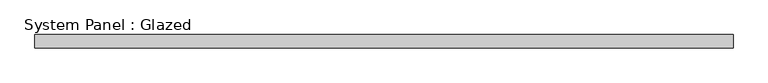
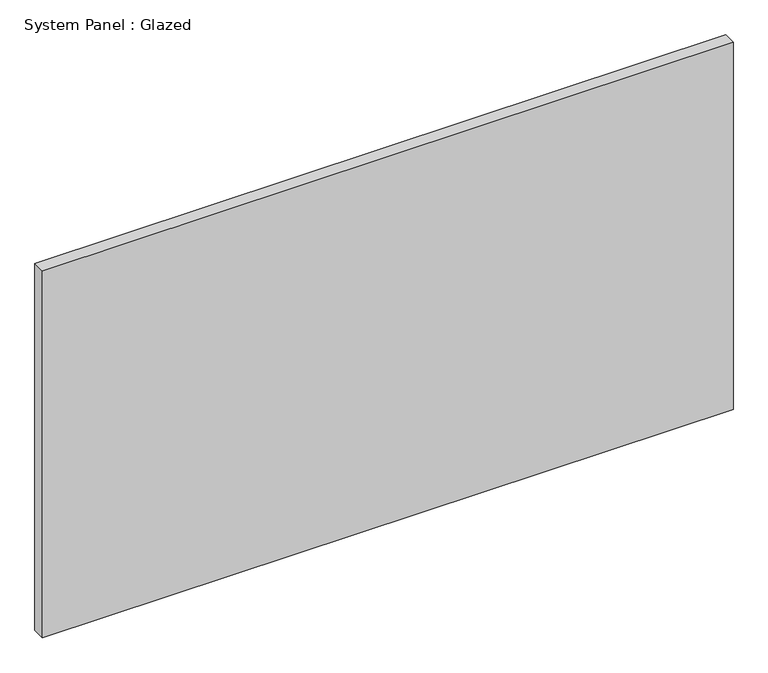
"""IFC4 building model written with IfcOpenShell, lengths in millimetres: plate geometry, System Panel : Glazed."""

import ifcopenshell
import ifcopenshell.guid

model = None  # the IFC model being written
_history = None  # IfcOwnerHistory: only IFC2X3 demands one
_inside = {}  # id of a spatial element -> (the spatial element, [elements in it])
_under = {}  # id of a project, library or spatial element -> (it, [spatial elements below it])
_declared = {}  # id of a project -> (the project, [libraries it declares])
_typed = {}  # id of a type object -> (the type object, [elements of that type])
_made_of = {}  # id of a material, layer set ... -> (it, [elements and type objects made of it])


def new_model(schema):
    """Start an empty IFC model of exactly this schema.

    Asked for "IFC4X3", IfcOpenShell would pick the latest addendum, in which some entities
    have other attributes; the version numbers below select the first issue.
    IFC2X3 requires an IfcOwnerHistory on every rooted entity: one is made here for all.
    """
    global model, _history
    if schema == "IFC4X3":
        model = ifcopenshell.file(schema_version=(4, 3, 0, 0))
    else:
        model = ifcopenshell.file(schema=schema)
    _inside.clear()
    _under.clear()
    _declared.clear()
    _typed.clear()
    _made_of.clear()
    _history = None
    if model.schema == "IFC2X3":
        org = make("IfcOrganization", Name="unknown")
        user = make(
            "IfcPersonAndOrganization",
            ThePerson=make("IfcPerson", FamilyName="unknown"),
            TheOrganization=org,
        )
        app = make(
            "IfcApplication",
            ApplicationDeveloper=org,
            Version="unknown",
            ApplicationFullName="unknown",
            ApplicationIdentifier="unknown",
        )
        _history = make(
            "IfcOwnerHistory",
            OwningUser=user,
            OwningApplication=app,
            ChangeAction="ADDED",
            CreationDate=0,
        )
    return model


def make(cls, **values):
    """One entity of the class cls with the attributes given. An attribute that is None is left unset."""
    return model.create_entity(
        cls, **{name: value for name, value in values.items() if value is not None}
    )


def rooted(cls, **values):
    """An entity with a GlobalId (a new one), such as an element, a storey or a relation."""
    return make(cls, GlobalId=ifcopenshell.guid.new(), OwnerHistory=_history, **values)


def si_unit(unit_type, name, prefix=None):
    """IfcSIUnit, for example si_unit("LENGTHUNIT", "METRE", prefix="MILLI")."""
    return make("IfcSIUnit", UnitType=unit_type, Prefix=prefix, Name=name)


def assignment(units):
    """IfcUnitAssignment: the units of a project."""
    return None if units is None else make("IfcUnitAssignment", Units=units)


def point(xyz):
    """IfcCartesianPoint."""
    return None if xyz is None else make("IfcCartesianPoint", Coordinates=xyz)


def direction(xyz):
    """IfcDirection."""
    return None if xyz is None else make("IfcDirection", DirectionRatios=xyz)


def frame(location, z_axis=None, x_axis=None):
    """IfcAxis2Placement3D, a coordinate frame: its origin and axes. An axis left out is left unset."""
    return make(
        "IfcAxis2Placement3D",
        Location=point(location),
        Axis=direction(z_axis),
        RefDirection=direction(x_axis),
    )


def origin():
    """The frame at (0, 0, 0) with its axes left unset."""
    return frame((0.0, 0.0, 0.0))


def origin_with_axes():
    """The frame at (0, 0, 0) with the z axis (0, 0, 1) and the x axis (1, 0, 0) written out."""
    return frame((0.0, 0.0, 0.0), z_axis=(0.0, 0.0, 1.0), x_axis=(1.0, 0.0, 0.0))


def place(relative_to, where):
    """IfcLocalPlacement: puts the frame where relative to a parent placement (None: the world)."""
    return make(
        "IfcLocalPlacement", PlacementRelTo=relative_to, RelativePlacement=where
    )


def context(
    kind, dimensions, precision=None, world=None, true_north=None, identifier=None
):
    """IfcGeometricRepresentationContext, for example the 3D "Model" context."""
    return make(
        "IfcGeometricRepresentationContext",
        ContextIdentifier=identifier,
        ContextType=kind,
        CoordinateSpaceDimension=dimensions,
        Precision=precision,
        WorldCoordinateSystem=world,
        TrueNorth=true_north,
    )


def project(units=None, contexts=None):
    """IfcProject with its units and contexts."""
    return rooted(
        "IfcProject",
        Name="project",
        RepresentationContexts=contexts,
        UnitsInContext=assignment(units),
    )


def spatial(cls, under=None, at=None, **own):
    """A site, building, storey or space (cls), placed at a placement, below another one or the project."""
    s = rooted(cls, ObjectPlacement=at, **own)
    if under is not None:
        _under.setdefault(under.id(), (under, []))[1].append(s)
    return s


def polyline(points):
    """IfcPolyline through the points."""
    return make("IfcPolyline", Points=[point(p) for p in points])


def outline(outer, holes=None, kind="AREA"):
    """IfcArbitraryClosedProfileDef: a profile drawn as a closed curve; with holes, ...WithVoids."""
    if holes is None:
        return make("IfcArbitraryClosedProfileDef", ProfileType=kind, OuterCurve=outer)
    return make(
        "IfcArbitraryProfileDefWithVoids",
        ProfileType=kind,
        OuterCurve=outer,
        InnerCurves=holes,
    )


def extrude(swept, where, along, depth):
    """IfcExtrudedAreaSolid: the profile swept, set in the frame where, extruded along a direction by depth."""
    return make(
        "IfcExtrudedAreaSolid",
        SweptArea=swept,
        Position=where,
        ExtrudedDirection=direction(along),
        Depth=depth,
    )


def shape(context_of_items, identifier, shape_type, items):
    """IfcShapeRepresentation: the items that make up one representation, for example the "Body"."""
    return make(
        "IfcShapeRepresentation",
        ContextOfItems=context_of_items,
        RepresentationIdentifier=identifier,
        RepresentationType=shape_type,
        Items=items,
    )


def source(mapping_origin, context_of_items, identifier, shape_type, items):
    """IfcRepresentationMap: a shape defined once, which mapped items show again and again."""
    return make(
        "IfcRepresentationMap",
        MappingOrigin=mapping_origin,
        MappedRepresentation=shape(context_of_items, identifier, shape_type, items),
    )


def transform(
    local_origin,
    x_axis=None,
    y_axis=None,
    z_axis=None,
    scale=None,
    scale2=None,
    scale3=None,
    uniform=True,
):
    """IfcCartesianTransformationOperator3D, or its non-uniform kind. x_axis, y_axis, z_axis: its Axis1, 2, 3."""
    if uniform:
        return make(
            "IfcCartesianTransformationOperator3D",
            Axis1=direction(x_axis),
            Axis2=direction(y_axis),
            LocalOrigin=point(local_origin),
            Scale=scale,
            Axis3=direction(z_axis),
        )
    return make(
        "IfcCartesianTransformationOperator3DnonUniform",
        Axis1=direction(x_axis),
        Axis2=direction(y_axis),
        LocalOrigin=point(local_origin),
        Scale=scale,
        Axis3=direction(z_axis),
        Scale2=scale2,
        Scale3=scale3,
    )


def mapped(mapping_source, mapping_target):
    """IfcMappedItem: shows the shape of a source again, moved by a transform."""
    return make(
        "IfcMappedItem", MappingSource=mapping_source, MappingTarget=mapping_target
    )


def made_of(thing, what):
    """Note that an element or type object is made of a material, layer set ...; save() writes the relation."""
    if what is not None:
        _made_of.setdefault(what.id(), (what, []))[1].append(thing)
    return thing


def element(
    cls,
    number,
    at=None,
    inside=None,
    cuts=None,
    type_object=None,
    material=None,
    context=None,
    identifier="Body",
    shape_type=None,
    held_by="IfcProductDefinitionShape",
    body=None,
    shapes=None,
    **own,
):
    """One element of the class cls, such as IfcWall. Its Tag is "e" and its number.

    at: its placement. inside: the storey or other place that contains it. cuts: it is an
    opening in that element (IfcRelVoidsElement). A single representation is given by context,
    identifier, shape_type and body (its items); several are given by shapes. held_by: the class
    of the entity that holds the representations. save() writes the other relations.
    """
    e = rooted(cls, Tag="e%d" % number, ObjectPlacement=at, **own)
    if body is not None:
        shapes = [shape(context, identifier, shape_type, body)]
    if shapes is not None:
        e.Representation = make(held_by, Representations=shapes)
    if inside is not None:
        _inside.setdefault(inside.id(), (inside, []))[1].append(e)
    if cuts is not None:
        rooted(
            "IfcRelVoidsElement", RelatingBuildingElement=cuts, RelatedOpeningElement=e
        )
    if type_object is not None:
        _typed.setdefault(type_object.id(), (type_object, []))[1].append(e)
    return made_of(e, material)


def aggregate(whole, parts):
    """IfcRelAggregates: a whole, such as a stair, and the parts it consists of."""
    return rooted("IfcRelAggregates", RelatingObject=whole, RelatedObjects=parts)


def save(model, path):
    """Write the relations noted so far, then the file.

    IfcRelAggregates (storeys below a building ...), IfcRelContainedInSpatialStructure (elements
    in a storey), IfcRelDefinesByType, IfcRelAssociatesMaterial and IfcRelDeclares: one each for
    every whole, place, type object, material and project.
    """
    for whole, parts in _under.values():
        aggregate(whole, parts)
    for where, things in _inside.values():
        rooted(
            "IfcRelContainedInSpatialStructure",
            RelatedElements=things,
            RelatingStructure=where,
        )
    for kind, things in _typed.values():
        rooted("IfcRelDefinesByType", RelatedObjects=things, RelatingType=kind)
    for what, things in _made_of.values():
        rooted("IfcRelAssociatesMaterial", RelatedObjects=things, RelatingMaterial=what)
    for by, libraries in _declared.values():
        rooted("IfcRelDeclares", RelatingContext=by, RelatedDefinitions=libraries)
    model.write(path)


def system_panel_glazed_7e2c67d3(model_context):
    return source(origin(), model_context, "Body", "SweptSolid", [
        extrude(outline(polyline([(674.4738159, 19.05), (-674.4738159, 19.05), (-674.4738159, 44.45), (674.4738159, 44.45), (674.4738159, 19.05)])), origin_with_axes(), (0.0, 0.0, 1.0), 758.2776451),
    ])


if __name__ == "__main__":
    model = new_model("IFC4")
    model_context = context("Model", 3, world=origin())
    ifc_project = project(units=[si_unit("LENGTHUNIT", "METRE", prefix="MILLI")], contexts=[model_context])
    site = spatial("IfcSite", under=ifc_project)
    building = spatial("IfcBuilding", under=site)
    placement = place(None, origin())
    system_panel_glazed_shape = system_panel_glazed_7e2c67d3(model_context)
    element("IfcPlate", 1, ObjectType="System Panel : Glazed", at=placement, inside=building, context=model_context, shape_type="MappedRepresentation", body=[
        mapped(system_panel_glazed_shape, transform((0.0, 0.0, 0.0), x_axis=(1.0, 0.0, 0.0), y_axis=(0.0, 1.0, 0.0), z_axis=(0.0, 0.0, 1.0))),
    ])
    save(model, "model.ifc")
